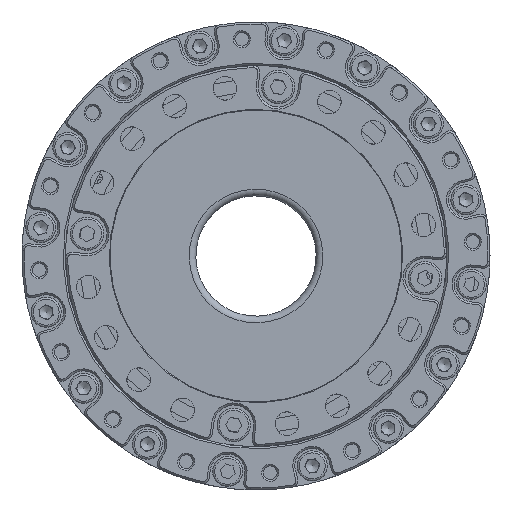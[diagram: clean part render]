
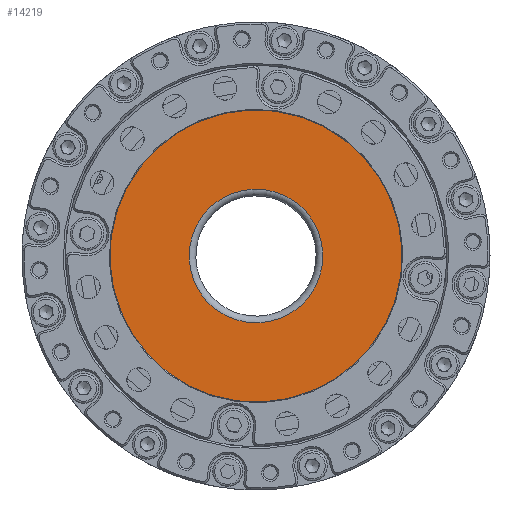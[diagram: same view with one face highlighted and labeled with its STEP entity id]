
A CAD part, front view. The second image highlights one B-rep face of the part: STEP entity #14219.
In plain terms, the highlighted planar face has unit normal (0, -1, 0).
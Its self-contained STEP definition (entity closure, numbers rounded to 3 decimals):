
#304 = DIRECTION ( 'NONE',  ( 0., 1., 0. ) ) ;
#2389 = ORIENTED_EDGE ( 'NONE', *, *, #8009, .T. ) ;
#4139 = DIRECTION ( 'NONE',  ( -0.991, 0., 0.131 ) ) ;
#4620 = FACE_OUTER_BOUND ( 'NONE', #28142, .T. ) ;
#6811 = CIRCLE ( 'NONE', #33023, 21.85 ) ;
#8009 = EDGE_CURVE ( 'NONE', #42942, #42942, #10616, .T. ) ;
#8722 = AXIS2_PLACEMENT_3D ( 'NONE', #36472, #42890, #14832 ) ;
#10616 = CIRCLE ( 'NONE', #41917, 10. ) ;
#10988 = CARTESIAN_POINT ( 'NONE',  ( -1.816, -29.909, 2.069 ) ) ;
#11634 = DIRECTION ( 'NONE',  ( 0., -1., 0. ) ) ;
#14131 = CARTESIAN_POINT ( 'NONE',  ( -23.479, -29.909, 4.921 ) ) ;
#14219 = ADVANCED_FACE ( 'NONE', ( #14612, #4620 ), #31990, .T. ) ;
#14612 = FACE_BOUND ( 'NONE', #38697, .T. ) ;
#14828 = ORIENTED_EDGE ( 'NONE', *, *, #16038, .T. ) ;
#14832 = DIRECTION ( 'NONE',  ( -0.991, 0., 0.131 ) ) ;
#14880 = CARTESIAN_POINT ( 'NONE',  ( -11.73, -29.909, 3.374 ) ) ;
#16038 = EDGE_CURVE ( 'NONE', #34470, #34470, #6811, .T. ) ;
#24895 = CARTESIAN_POINT ( 'NONE',  ( -1.816, -29.909, 2.069 ) ) ;
#28142 = EDGE_LOOP ( 'NONE', ( #14828 ) ) ;
#31990 = PLANE ( 'NONE',  #8722 ) ;
#33023 = AXIS2_PLACEMENT_3D ( 'NONE', #24895, #11634, #4139 ) ;
#34470 = VERTEX_POINT ( 'NONE', #14131 ) ;
#36472 = CARTESIAN_POINT ( 'NONE',  ( -1.816, -29.909, 2.069 ) ) ;
#38697 = EDGE_LOOP ( 'NONE', ( #2389 ) ) ;
#38766 = DIRECTION ( 'NONE',  ( -0.991, 0., 0.131 ) ) ;
#41917 = AXIS2_PLACEMENT_3D ( 'NONE', #10988, #304, #38766 ) ;
#42890 = DIRECTION ( 'NONE',  ( 0., -1., 0. ) ) ;
#42942 = VERTEX_POINT ( 'NONE', #14880 ) ;
